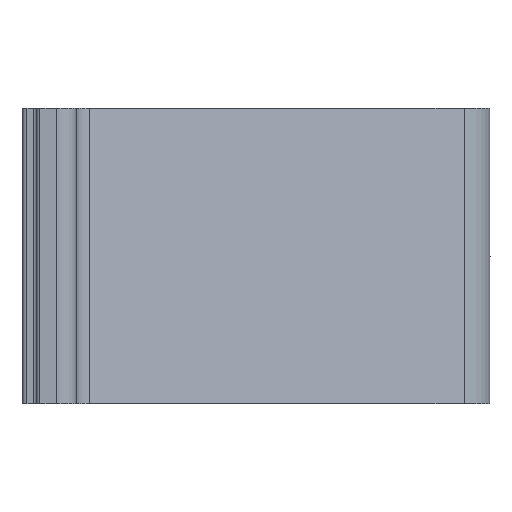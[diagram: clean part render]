
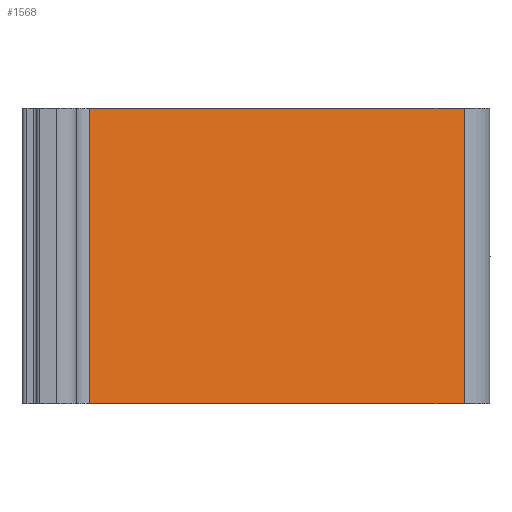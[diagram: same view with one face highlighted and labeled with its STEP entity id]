
A CAD part, front view. The second image highlights one B-rep face of the part: STEP entity #1568.
In plain terms, the highlighted planar face has unit normal (0.342, -0.94, 0).
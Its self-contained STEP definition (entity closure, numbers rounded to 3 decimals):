
#91=FACE_OUTER_BOUND('',#172,.T.);
#172=EDGE_LOOP('',(#1190,#1191,#1192,#1193));
#315=LINE('',#2314,#468);
#374=LINE('',#2587,#527);
#375=LINE('',#2590,#528);
#376=LINE('',#2591,#529);
#468=VECTOR('',#1828,10.);
#527=VECTOR('',#2025,10.);
#528=VECTOR('',#2028,10.);
#529=VECTOR('',#2029,10.);
#624=VERTEX_POINT('',#2311);
#625=VERTEX_POINT('',#2313);
#722=VERTEX_POINT('',#2585);
#723=VERTEX_POINT('',#2589);
#786=EDGE_CURVE('',#625,#624,#315,.T.);
#904=EDGE_CURVE('',#624,#722,#374,.T.);
#905=EDGE_CURVE('',#722,#723,#375,.T.);
#906=EDGE_CURVE('',#625,#723,#376,.T.);
#1190=ORIENTED_EDGE('',*,*,#905,.T.);
#1191=ORIENTED_EDGE('',*,*,#906,.F.);
#1192=ORIENTED_EDGE('',*,*,#786,.T.);
#1193=ORIENTED_EDGE('',*,*,#904,.T.);
#1517=PLANE('',#1723);
#1568=ADVANCED_FACE('',(#91),#1517,.T.);
#1723=AXIS2_PLACEMENT_3D('',#2588,#2026,#2027);
#1828=DIRECTION('',(0.94,0.342,0.));
#2025=DIRECTION('',(0.,0.,1.));
#2026=DIRECTION('center_axis',(0.342,-0.94,0.));
#2027=DIRECTION('ref_axis',(0.,0.,-1.));
#2028=DIRECTION('',(-0.94,-0.342,0.));
#2029=DIRECTION('',(0.,0.,1.));
#2311=CARTESIAN_POINT('',(1.96,43.259,0.));
#2313=CARTESIAN_POINT('',(-36.092,29.409,0.));
#2314=CARTESIAN_POINT('',(-36.092,29.409,0.));
#2585=CARTESIAN_POINT('',(1.96,43.259,30.));
#2587=CARTESIAN_POINT('',(1.96,43.259,0.));
#2588=CARTESIAN_POINT('Origin',(1.96,43.259,0.));
#2589=CARTESIAN_POINT('',(-36.092,29.409,30.));
#2590=CARTESIAN_POINT('',(-36.092,29.409,30.));
#2591=CARTESIAN_POINT('',(-36.092,29.409,0.));
